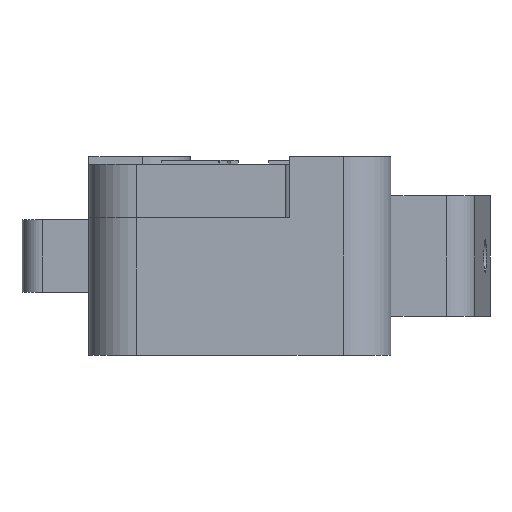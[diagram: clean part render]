
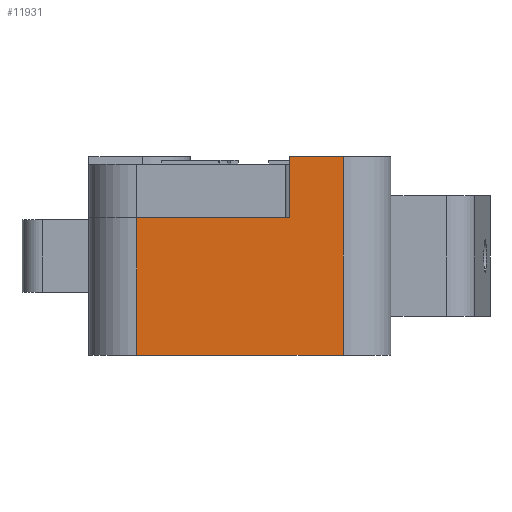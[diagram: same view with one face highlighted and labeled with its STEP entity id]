
A CAD part, left-side view. The second image highlights one B-rep face of the part: STEP entity #11931.
In plain terms, the highlighted planar face has unit normal (-1, 0, 0).
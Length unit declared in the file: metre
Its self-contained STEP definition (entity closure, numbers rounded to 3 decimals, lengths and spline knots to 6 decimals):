
#11474=CARTESIAN_POINT('',(-0.027238,-0.017123,0.033313));
#11475=VERTEX_POINT('',#11474);
#11509=CARTESIAN_POINT('',(-0.027238,-0.014323,0.033313));
#11510=VERTEX_POINT('',#11509);
#11513=CARTESIAN_POINT('',(-0.027238,-0.014323,0.033313));
#11514=DIRECTION('',(0.,-1.,0.));
#11515=VECTOR('',#11514,1.);
#11516=LINE('',#11513,#11515);
#11517=EDGE_CURVE('',#11510,#11475,#11516,.T.);
#11569=CARTESIAN_POINT('',(-0.027238,-0.014323,0.030113));
#11570=VERTEX_POINT('',#11569);
#11573=CARTESIAN_POINT('',(-0.027238,-0.014323,0.033313));
#11574=DIRECTION('',(0.,0.,-1.));
#11575=VECTOR('',#11574,1.);
#11576=LINE('',#11573,#11575);
#11577=EDGE_CURVE('',#11510,#11570,#11576,.T.);
#11876=CARTESIAN_POINT('',(-0.027238,-0.017123,0.022913));
#11877=VERTEX_POINT('',#11876);
#11882=CARTESIAN_POINT('',(-0.027238,-0.017123,0.033313));
#11883=DIRECTION('',(0.,0.,-1.));
#11884=VECTOR('',#11883,1.);
#11885=LINE('',#11882,#11884);
#11886=EDGE_CURVE('',#11475,#11877,#11885,.T.);
#11899=CARTESIAN_POINT('',(-0.027238,-0.014323,0.033313));
#11900=DIRECTION('',(1.,0.,0.));
#11901=DIRECTION('',(0.,1.,0.));
#11902=AXIS2_PLACEMENT_3D('',#11899,#11900,#11901);
#11903=PLANE('',#11902);
#11904=CARTESIAN_POINT('',(-0.027238,-0.014323,0.022913));
#11905=DIRECTION('',(0.,-1.,0.));
#11906=VECTOR('',#11905,1.);
#11907=LINE('',#11904,#11906);
#11908=CARTESIAN_POINT('',(-0.027238,-0.006323,0.022913));
#11909=VERTEX_POINT('',#11908);
#11910=EDGE_CURVE('',#11909,#11877,#11907,.T.);
#11911=ORIENTED_EDGE('',*,*,#11910,.T.);
#11912=ORIENTED_EDGE('',*,*,#11886,.F.);
#11913=ORIENTED_EDGE('',*,*,#11517,.F.);
#11914=ORIENTED_EDGE('',*,*,#11577,.T.);
#11915=CARTESIAN_POINT('',(-0.027238,-0.011723,0.030113));
#11916=DIRECTION('',(0.,-1.,0.));
#11917=VECTOR('',#11916,1.);
#11918=LINE('',#11915,#11917);
#11919=CARTESIAN_POINT('',(-0.027238,-0.006323,0.030113));
#11920=VERTEX_POINT('',#11919);
#11921=EDGE_CURVE('',#11920,#11570,#11918,.T.);
#11922=ORIENTED_EDGE('',*,*,#11921,.F.);
#11923=CARTESIAN_POINT('',(-0.027238,-0.006323,0.030113));
#11924=DIRECTION('',(0.,0.,-1.));
#11925=VECTOR('',#11924,1.);
#11926=LINE('',#11923,#11925);
#11927=EDGE_CURVE('',#11920,#11909,#11926,.T.);
#11928=ORIENTED_EDGE('',*,*,#11927,.T.);
#11929=EDGE_LOOP('',(#11911,#11912,#11913,#11914,#11922,#11928));
#11930=FACE_BOUND('',#11929,.T.);
#11931=ADVANCED_FACE('',(#11930),#11903,.F.);
